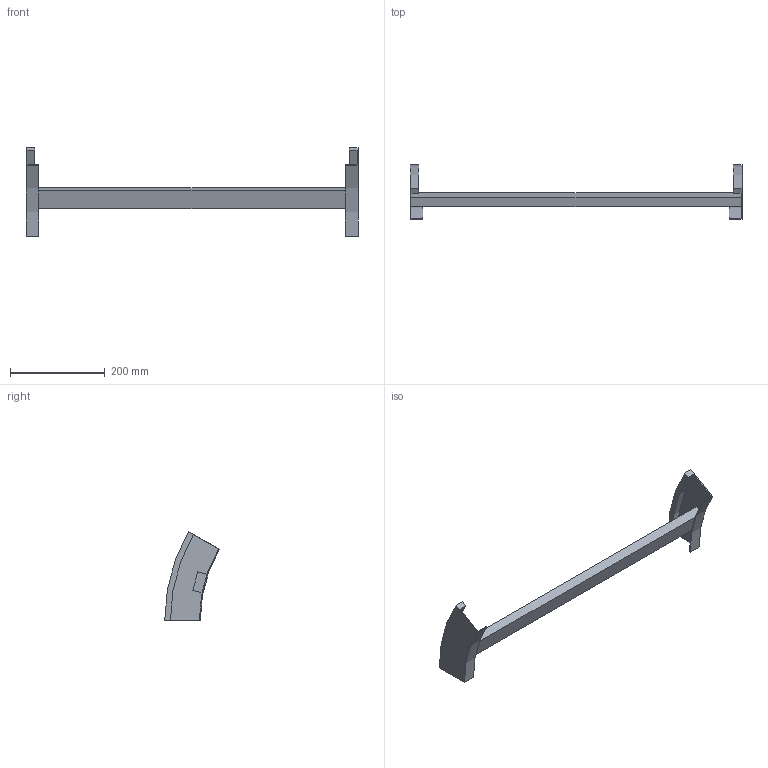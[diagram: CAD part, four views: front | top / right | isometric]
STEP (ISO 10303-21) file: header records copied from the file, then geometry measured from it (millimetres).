
FILE_DESCRIPTION (( 'STEP AP214' ), '1' );
FILE_NAME ('B2_35B3C700.step', '2025-02-21T14:50:38', ( '' ), ( '' ), 'SwSTEP 2.0', 'SolidWorks 2023', '' );
FILE_SCHEMA (( 'AUTOMOTIVE_DESIGN' ));
Length unit declared in the file: millimetre
Products named in the file (3): B2_LONGH.DISCESA_30°_H75_R300; TRAVERSINO_700; B2_35B3C700
Assembly tree (3 placements, depth 2):
  B2_35B3C700
    B2_LONGH.DISCESA_30°_H75_R300  x2
    TRAVERSINO_700
Bounding box: 700 x 115.19 x 187.5 mm (x, y, z)
Volume: 706726.6 mm3; surface area: 169957.7 mm2
Topology: 3 solids, 3 shells, 26 faces, 60 edges, 40 vertices
Faces by surface type: plane 18, cylinder 8
Entity records: 544 total; most frequent: DIRECTION 88, CARTESIAN_POINT 82, ORIENTED_EDGE 72, EDGE_CURVE 36, AXIS2_PLACEMENT_3D 30, LINE 28, VECTOR 28, VERTEX_POINT 24
